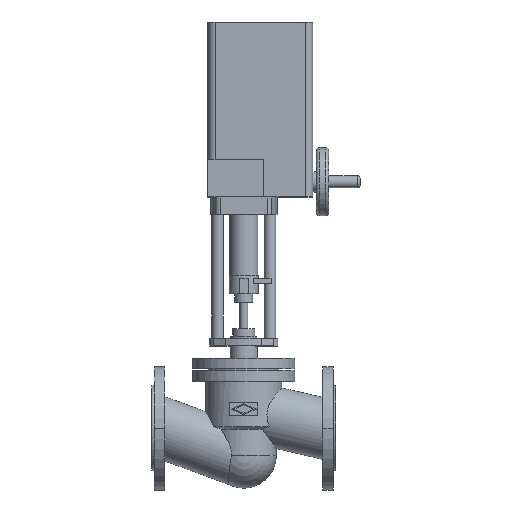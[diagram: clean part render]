
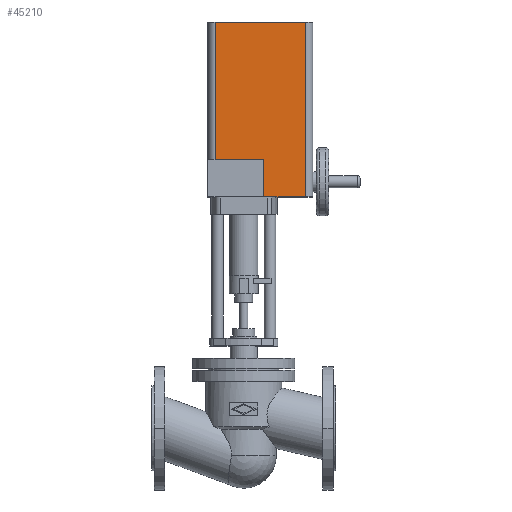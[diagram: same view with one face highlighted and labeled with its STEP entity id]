
A CAD part, top view. The second image highlights one B-rep face of the part: STEP entity #45210.
In plain terms, the highlighted planar face has unit normal (0, 0, 1).
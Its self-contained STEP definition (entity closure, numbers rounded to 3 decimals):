
#38510=CARTESIAN_POINT('',(213.1,441.,114.));
#38520=VERTEX_POINT('',#38510);
#38570=CARTESIAN_POINT('',(120.6,441.,114.));
#38580=DIRECTION('',(1.,0.,0.));
#38590=VECTOR('',#38580,1.);
#38600=LINE('',#38570,#38590);
#38610=CARTESIAN_POINT('',(292.6,441.,114.));
#38620=VERTEX_POINT('',#38610);
#38630=EDGE_CURVE('',#38520,#38620,#38600,.T.);
#40640=CARTESIAN_POINT('',(213.1,512.5,114.));
#40650=VERTEX_POINT('',#40640);
#40680=CARTESIAN_POINT('',(213.1,441.,114.));
#40690=DIRECTION('',(0.,-1.,0.));
#40700=VECTOR('',#40690,1.);
#40710=LINE('',#40680,#40700);
#40720=EDGE_CURVE('',#40650,#38520,#40710,.T.);
#41050=CARTESIAN_POINT('',(120.6,774.5,114.));
#41060=VERTEX_POINT('',#41050);
#41090=CARTESIAN_POINT('',(120.6,441.,114.));
#41100=DIRECTION('',(0.,1.,0.));
#41110=VECTOR('',#41100,1.);
#41120=LINE('',#41090,#41110);
#41130=CARTESIAN_POINT('',(120.6,512.5,114.));
#41140=VERTEX_POINT('',#41130);
#41150=EDGE_CURVE('',#41140,#41060,#41120,.T.);
#44640=CARTESIAN_POINT('',(292.6,441.,114.));
#44650=DIRECTION('',(0.,-1.,0.));
#44660=VECTOR('',#44650,1.);
#44670=LINE('',#44640,#44660);
#44680=CARTESIAN_POINT('',(292.6,774.5,114.));
#44690=VERTEX_POINT('',#44680);
#44700=EDGE_CURVE('',#44690,#38620,#44670,.T.);
#44920=CARTESIAN_POINT('',(120.6,774.5,114.));
#44930=DIRECTION('',(-1.,0.,0.));
#44940=VECTOR('',#44930,1.);
#44950=LINE('',#44920,#44940);
#44960=EDGE_CURVE('',#44690,#41060,#44950,.T.);
#45030=CARTESIAN_POINT('',(292.6,441.,114.));
#45040=DIRECTION('',(0.,0.,1.));
#45050=DIRECTION('',(1.,0.,0.));
#45060=AXIS2_PLACEMENT_3D('',#45030,#45040,#45050);
#45070=PLANE('',#45060);
#45080=ORIENTED_EDGE('',*,*,#41150,.F.);
#45090=ORIENTED_EDGE('',*,*,#44960,.T.);
#45100=ORIENTED_EDGE('',*,*,#44700,.F.);
#45110=ORIENTED_EDGE('',*,*,#38630,.T.);
#45120=ORIENTED_EDGE('',*,*,#40720,.T.);
#45130=CARTESIAN_POINT('',(233.8,512.5,114.));
#45140=DIRECTION('',(1.,0.,0.));
#45150=VECTOR('',#45140,1.);
#45160=LINE('',#45130,#45150);
#45170=EDGE_CURVE('',#41140,#40650,#45160,.T.);
#45180=ORIENTED_EDGE('',*,*,#45170,.T.);
#45190=EDGE_LOOP('',(#45180,#45120,#45110,#45100,#45090,#45080));
#45200=FACE_OUTER_BOUND('',#45190,.T.);
#45210=ADVANCED_FACE('',(#45200),#45070,.T.);
